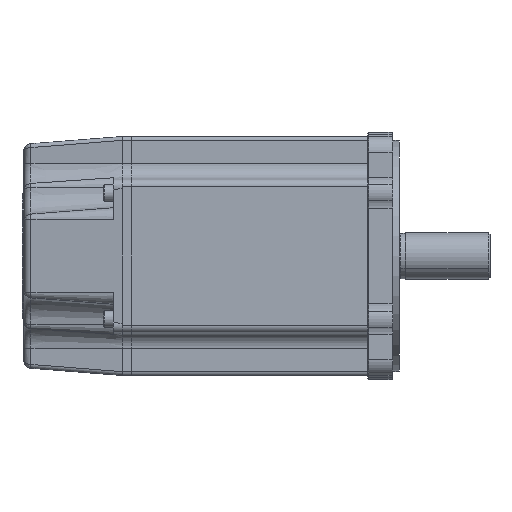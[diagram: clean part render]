
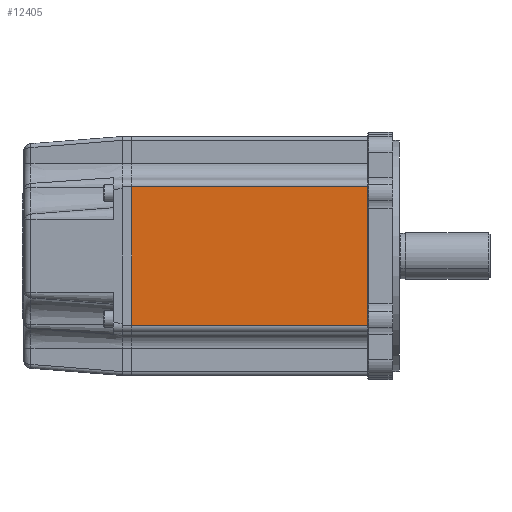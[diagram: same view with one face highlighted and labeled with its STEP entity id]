
A CAD part, front view. The second image highlights one B-rep face of the part: STEP entity #12405.
In plain terms, the highlighted planar face has unit normal (0, -1, 0).
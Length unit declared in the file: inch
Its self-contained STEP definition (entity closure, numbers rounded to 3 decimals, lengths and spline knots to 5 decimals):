
#10448 = CARTESIAN_POINT ( 'NONE',  ( -4.22, -1.935, -1.935 ) ) ;
#12405 = ADVANCED_FACE ( 'NONE', ( #107208 ), #35431, .F. ) ;
#14589 = EDGE_CURVE ( 'NONE', #136930, #129643, #159227, .T. ) ;
#17836 = VERTEX_POINT ( 'NONE', #139258 ) ;
#20306 = VERTEX_POINT ( 'NONE', #138114 ) ;
#23256 = VECTOR ( 'NONE', #78612, 39.37008 ) ;
#25220 = LINE ( 'NONE', #141690, #29089 ) ;
#25830 = VECTOR ( 'NONE', #97590, 39.37008 ) ;
#29089 = VECTOR ( 'NONE', #67219, 39.37008 ) ;
#31662 = EDGE_CURVE ( 'NONE', #17836, #20306, #58828, .T. ) ;
#35431 = PLANE ( 'NONE',  #80224 ) ;
#41202 = CARTESIAN_POINT ( 'NONE',  ( -4.22, -1.935, -1.12 ) ) ;
#46617 = EDGE_CURVE ( 'NONE', #129643, #17836, #25220, .T. ) ;
#47867 = DIRECTION ( 'NONE',  ( 0., 1., 0. ) ) ;
#50373 = EDGE_LOOP ( 'NONE', ( #157736, #131980, #63661, #86881 ) ) ;
#58828 = LINE ( 'NONE', #135024, #25830 ) ;
#63661 = ORIENTED_EDGE ( 'NONE', *, *, #138522, .F. ) ;
#67219 = DIRECTION ( 'NONE',  ( 0., 0., 1. ) ) ;
#73798 = DIRECTION ( 'NONE',  ( 0., 0., 1. ) ) ;
#78612 = DIRECTION ( 'NONE',  ( 1., 0., 0. ) ) ;
#80224 = AXIS2_PLACEMENT_3D ( 'NONE', #10448, #47867, #134795 ) ;
#86881 = ORIENTED_EDGE ( 'NONE', *, *, #14589, .T. ) ;
#97536 = CARTESIAN_POINT ( 'NONE',  ( -0.4, -1.935, -1.12 ) ) ;
#97590 = DIRECTION ( 'NONE',  ( -1., 0., 0. ) ) ;
#105633 = VECTOR ( 'NONE', #73798, 39.37008 ) ;
#107208 = FACE_OUTER_BOUND ( 'NONE', #50373, .T. ) ;
#129643 = VERTEX_POINT ( 'NONE', #97536 ) ;
#131980 = ORIENTED_EDGE ( 'NONE', *, *, #31662, .T. ) ;
#134795 = DIRECTION ( 'NONE',  ( 0., 0., 1. ) ) ;
#135024 = CARTESIAN_POINT ( 'NONE',  ( -4.22, -1.935, 1.12 ) ) ;
#135740 = CARTESIAN_POINT ( 'NONE',  ( -4.22, -1.935, -1.935 ) ) ;
#136930 = VERTEX_POINT ( 'NONE', #41202 ) ;
#138114 = CARTESIAN_POINT ( 'NONE',  ( -4.22, -1.935, 1.12 ) ) ;
#138522 = EDGE_CURVE ( 'NONE', #136930, #20306, #138696, .T. ) ;
#138696 = LINE ( 'NONE', #135740, #105633 ) ;
#139258 = CARTESIAN_POINT ( 'NONE',  ( -0.4, -1.935, 1.12 ) ) ;
#140531 = CARTESIAN_POINT ( 'NONE',  ( -0.4, -1.935, -1.12 ) ) ;
#141690 = CARTESIAN_POINT ( 'NONE',  ( -0.4, -1.935, -1.935 ) ) ;
#157736 = ORIENTED_EDGE ( 'NONE', *, *, #46617, .T. ) ;
#159227 = LINE ( 'NONE', #140531, #23256 ) ;
